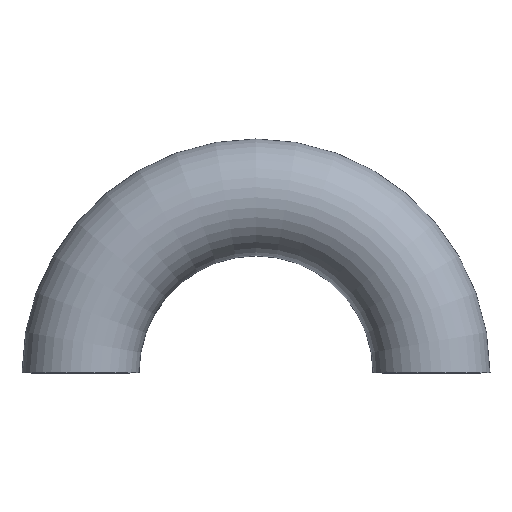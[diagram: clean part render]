
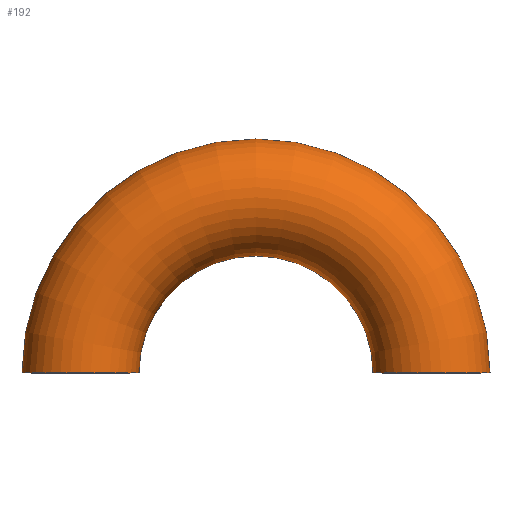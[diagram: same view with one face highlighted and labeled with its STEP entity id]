
A CAD part, top view. The second image highlights one B-rep face of the part: STEP entity #192.
In plain terms, the highlighted toroidal (fillet/blend) face has major radius 76.2 mm and minor radius 25.4 mm.
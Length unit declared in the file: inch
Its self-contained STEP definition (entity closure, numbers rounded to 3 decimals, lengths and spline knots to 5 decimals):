
#18 = CIRCLE ( 'NONE', #30, 1. ) ;
#25 = FACE_OUTER_BOUND ( 'NONE', #153, .T. ) ;
#30 = AXIS2_PLACEMENT_3D ( 'NONE', #140, #138, #137 ) ;
#36 = ORIENTED_EDGE ( 'NONE', *, *, #139, .F. ) ;
#37 = CARTESIAN_POINT ( 'NONE',  ( 4., 0., 0. ) ) ;
#39 = CARTESIAN_POINT ( 'NONE',  ( -4., 0., 0. ) ) ;
#46 = ORIENTED_EDGE ( 'NONE', *, *, #144, .F. ) ;
#51 = CIRCLE ( 'NONE', #57, 2. ) ;
#53 = CARTESIAN_POINT ( 'NONE',  ( 2., 0., 0. ) ) ;
#57 = AXIS2_PLACEMENT_3D ( 'NONE', #168, #167, #165 ) ;
#60 = CIRCLE ( 'NONE', #86, 1. ) ;
#65 = DIRECTION ( 'NONE',  ( -1., 0., 0. ) ) ;
#67 = TOROIDAL_SURFACE ( 'NONE', #219, 3., 1. ) ;
#80 = CARTESIAN_POINT ( 'NONE',  ( 0., 0., 0. ) ) ;
#85 = DIRECTION ( 'NONE',  ( 0., 0., -1. ) ) ;
#86 = AXIS2_PLACEMENT_3D ( 'NONE', #212, #211, #210 ) ;
#93 = AXIS2_PLACEMENT_3D ( 'NONE', #234, #233, #232 ) ;
#102 = ORIENTED_EDGE ( 'NONE', *, *, #154, .T. ) ;
#104 = CIRCLE ( 'NONE', #93, 4. ) ;
#129 = VERTEX_POINT ( 'NONE', #53 ) ;
#137 = DIRECTION ( 'NONE',  ( 0., 0., 1. ) ) ;
#138 = DIRECTION ( 'NONE',  ( 0., 1., 0. ) ) ;
#139 = EDGE_CURVE ( 'NONE', #225, #226, #104, .T. ) ;
#140 = CARTESIAN_POINT ( 'NONE',  ( 3., 0., 0. ) ) ;
#143 = ORIENTED_EDGE ( 'NONE', *, *, #161, .T. ) ;
#144 = EDGE_CURVE ( 'NONE', #145, #225, #60, .T. ) ;
#145 = VERTEX_POINT ( 'NONE', #238 ) ;
#153 = EDGE_LOOP ( 'NONE', ( #36, #46, #102, #143 ) ) ;
#154 = EDGE_CURVE ( 'NONE', #145, #129, #51, .T. ) ;
#161 = EDGE_CURVE ( 'NONE', #129, #226, #18, .T. ) ;
#165 = DIRECTION ( 'NONE',  ( -1., 0., 0. ) ) ;
#167 = DIRECTION ( 'NONE',  ( 0., 0., -1. ) ) ;
#168 = CARTESIAN_POINT ( 'NONE',  ( 0., 0., 0. ) ) ;
#192 = ADVANCED_FACE ( 'NONE', ( #25 ), #67, .T. ) ;
#210 = DIRECTION ( 'NONE',  ( 0., 0., 1. ) ) ;
#211 = DIRECTION ( 'NONE',  ( 0., -1., 0. ) ) ;
#212 = CARTESIAN_POINT ( 'NONE',  ( -3., 0., 0. ) ) ;
#219 = AXIS2_PLACEMENT_3D ( 'NONE', #80, #85, #65 ) ;
#225 = VERTEX_POINT ( 'NONE', #39 ) ;
#226 = VERTEX_POINT ( 'NONE', #37 ) ;
#232 = DIRECTION ( 'NONE',  ( -1., 0., 0. ) ) ;
#233 = DIRECTION ( 'NONE',  ( 0., 0., -1. ) ) ;
#234 = CARTESIAN_POINT ( 'NONE',  ( 0., 0., 0. ) ) ;
#238 = CARTESIAN_POINT ( 'NONE',  ( -2., 0., 0. ) ) ;
